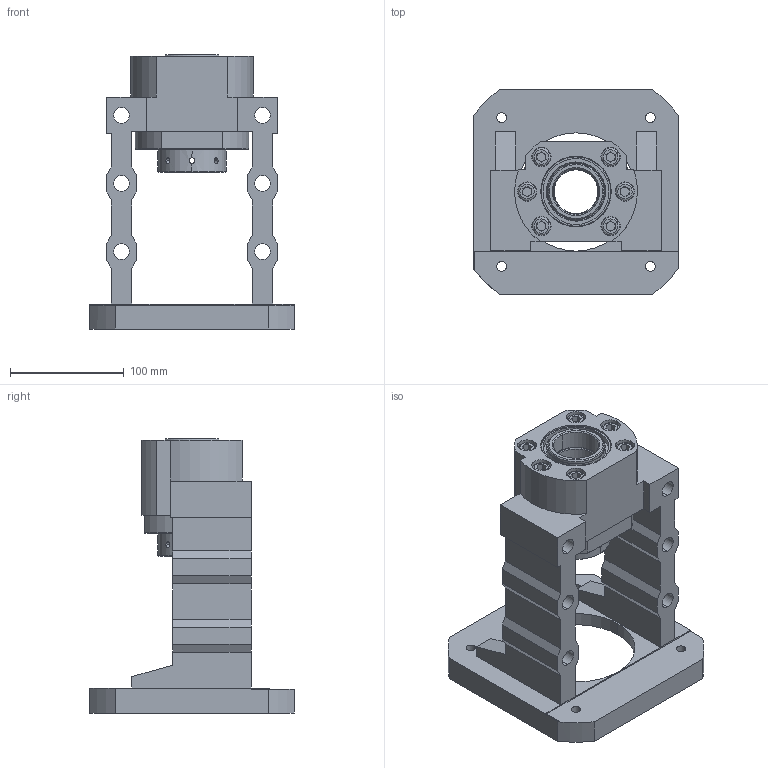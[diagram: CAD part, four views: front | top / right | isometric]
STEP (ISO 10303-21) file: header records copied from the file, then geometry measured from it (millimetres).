
FILE_DESCRIPTION (( 'STEP AP203' ), '1' );
FILE_NAME ('MBCK40-J²Õ¦X¥ó.STEP', '2024-09-05T08:31:32', ( '' ), ( '' ), 'SwSTEP 2.0', 'SolidWorks 2018', '' );
FILE_SCHEMA (( 'CONFIG_CONTROL_DESIGN' ));
Length unit declared in the file: millimetre
Products named in the file (1): MBCK40-J組合件
Bounding box: 180 x 180 x 241 mm (x, y, z)
Surface area: 239158.7 mm2 (no closed solid volume)
Topology: 0 solids, 21 shells, 339 faces, 968 edges, 639 vertices
Faces by surface type: plane 133, cylinder 114, cone 62, torus 18, bspline 12
Entity records: 30153 total; most frequent: CARTESIAN_POINT 21328, DIRECTION 1848, ORIENTED_EDGE 1692, EDGE_CURVE 960, AXIS2_PLACEMENT_3D 689, VERTEX_POINT 639, VECTOR 470, LINE 470
